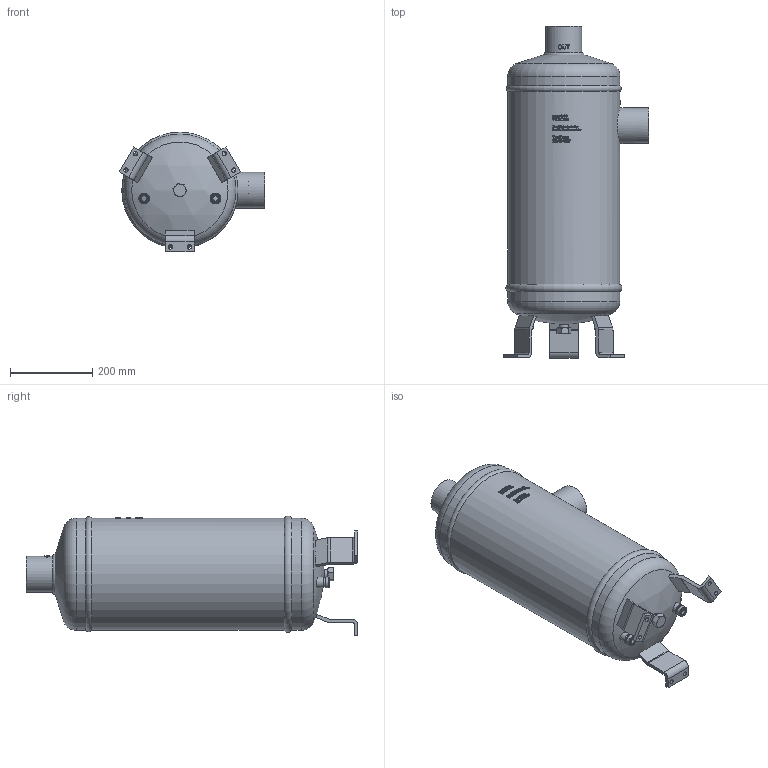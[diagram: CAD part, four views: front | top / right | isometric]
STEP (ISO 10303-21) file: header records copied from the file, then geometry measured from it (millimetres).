
FILE_DESCRIPTION(/* description */ (''),/* implementation_level */ '2;1');
FILE_NAME(/* name */ 'P:\FA\FA-80-32W\FA-80-32W.stp',/* time_stamp */ '2017-10-05T08:05:28+02:00',/* author */ ('neufeld'),/* organization */ (''),/* preprocessor_version */ 'ST-DEVELOPER v16.1',/* originating_system */ 'Autodesk Inventor 2016',/* authorisation */ '');
FILE_SCHEMA (('AUTOMOTIVE_DESIGN { 1 0 10303 214 3 1 1 }'));
Length unit declared in the file: millimetre
Products named in the file (3): FA-80-32W_1; FA-80-32W; FA-80-32W_2
Assembly tree (2 placements, depth 2):
  FA-80-32W_2
    FA-80-32W_1
    FA-80-32W
Bounding box: 353.9 x 807.87 x 291.37 mm (x, y, z)
Volume: 37214548.1 mm3; surface area: 761143.5 mm2
Topology: 1 solids, 1 shells, 1371 faces, 3695 edges, 2453 vertices
Faces by surface type: plane 722, bspline 466, cylinder 153, cone 21, torus 5, sphere 4
Full cylindrical faces by diameter (mm): 10.5 x6, 13.3 x2, 15.1 x2, 15.75 x2, 19.05 x2, 22.5 x5, 23.6 x1, 25.2 x2, 26 x2, 80.3 x2, 87 x2, 273 x1, 273.2 x2
Entity records: 53206 total; most frequent: CARTESIAN_POINT 21242, ORIENTED_EDGE 7290, DIRECTION 5463, EDGE_CURVE 3645, VERTEX_POINT 2448, AXIS2_PLACEMENT_3D 1870, LINE 1723, VECTOR 1723
